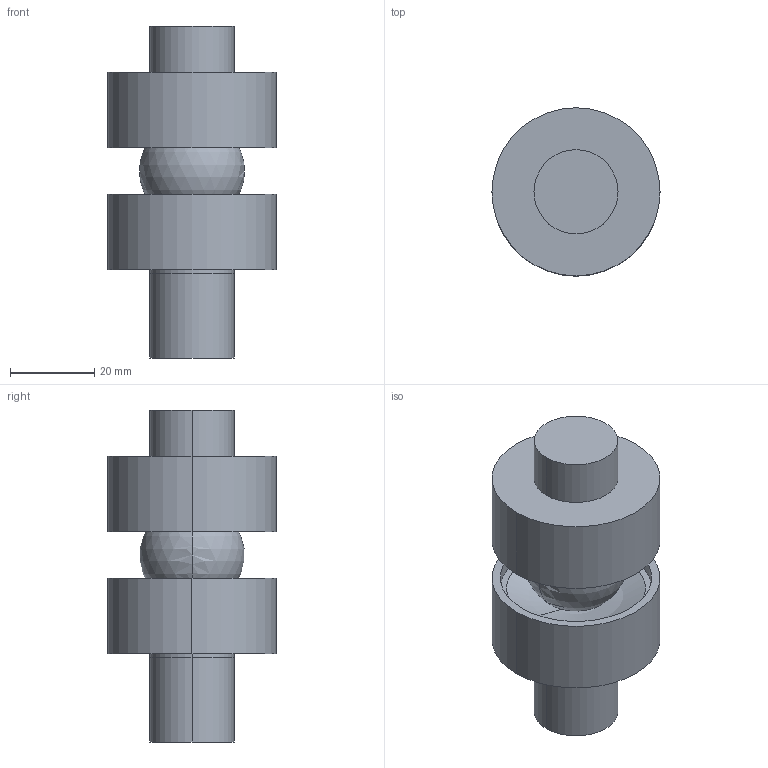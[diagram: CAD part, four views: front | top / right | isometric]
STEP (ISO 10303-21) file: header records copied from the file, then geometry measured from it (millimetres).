
FILE_DESCRIPTION((''),'1');
FILE_NAME('LALAQ_M20.step','2020-05-19T13:15:54',(''),(''),'','','');
FILE_SCHEMA(('AUTOMOTIVE_DESIGN { 1 0 10303 214 1 1 1 1 }'));
Products named in the file (4): LALAQ M20; LALAQ top part 01; LALAQ part 02; LALAQ part 03
Assembly tree (3 placements, depth 2):
  LALAQ M20
    LALAQ top part 01
    LALAQ part 02
    LALAQ part 03
Bounding box: 40 x 40 x 79 mm (x, y, z)
Volume: 53877.8 mm3; surface area: 15469.5 mm2
Topology: 3 solids, 4 shells, 29 faces, 62 edges, 38 vertices
Faces by surface type: cylinder 14, plane 9, sphere 6
Entity records: 872 total; most frequent: DIRECTION 160, CARTESIAN_POINT 125, ORIENTED_EDGE 104, AXIS2_PLACEMENT_3D 73, EDGE_CURVE 54, CIRCLE 40, VERTEX_POINT 38, EDGE_LOOP 36
